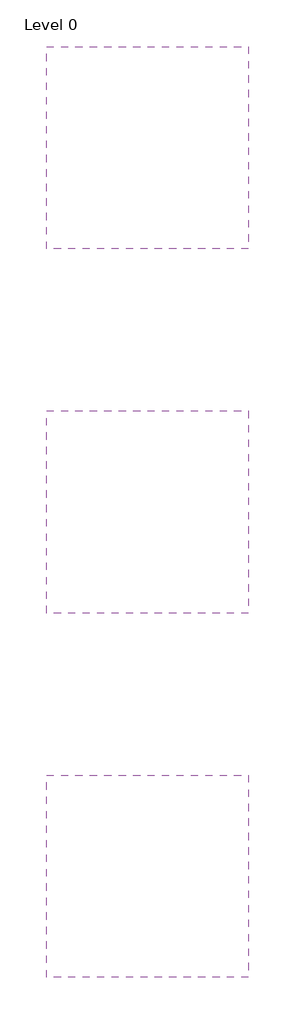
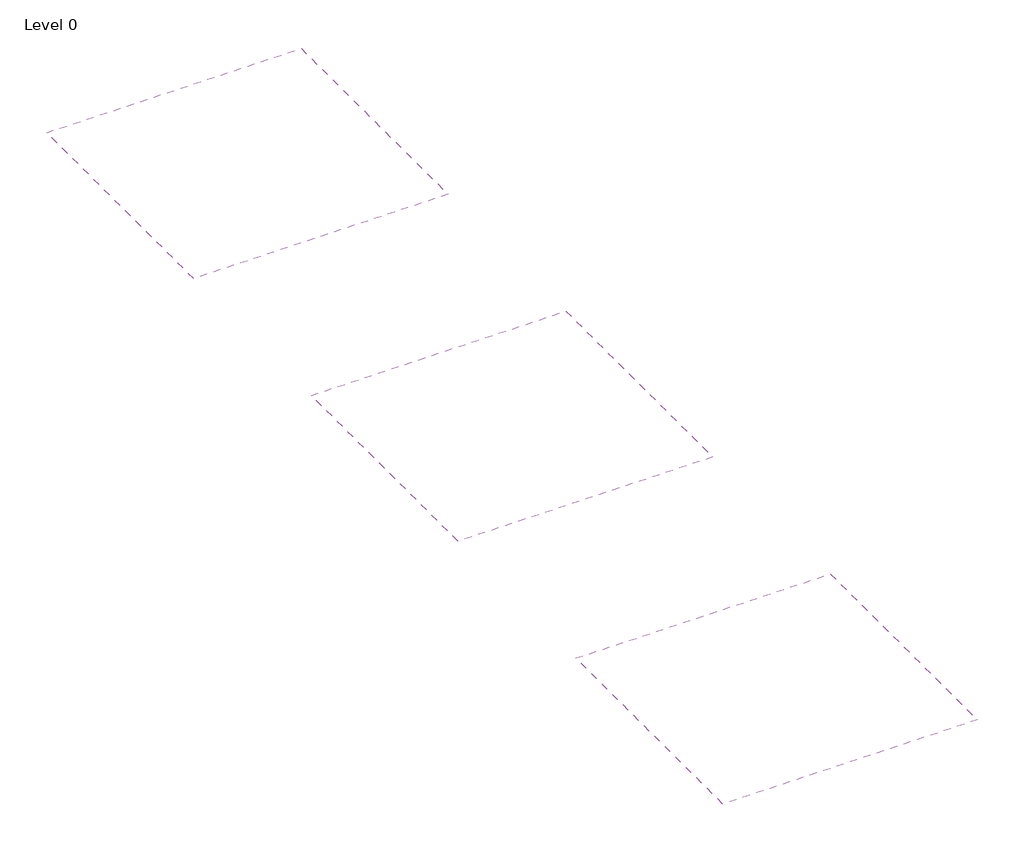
# One storey: 3 coverings.
"""IFC4 building model written with IfcOpenShell, lengths in millimetres."""

from ifc_helpers import new_model, si_unit, frame, origin, place, context, project, spatial, polyline, outline, extrude, element, save

model = new_model("IFC4")

# Units and contexts
model_context = context("Model", 3, world=origin())
ifc_project = project(units=[si_unit("LENGTHUNIT", "METRE", prefix="MILLI")], contexts=[model_context])

# Site, building, storey
site = spatial("IfcSite", under=ifc_project)
building = spatial("IfcBuilding", under=site)
storey = spatial("IfcBuildingStorey", under=building, Name="Level 0", Elevation=0.0)

# Coverings
placement = place(None, origin())
element("IfcCovering", 1, ObjectType="NBS_Zentia_ModularSuspendedCeilingSystems_ArubadB_BoardEdgeInfills", at=placement, inside=storey, context=model_context, shape_type="SweptSolid", body=[
    extrude(outline(polyline([(2999.979, -1922.5276493), (2999.979, -4422.5276493), (499.979, -4422.5276493), (499.979, -1922.5276493), (2999.979, -1922.5276493)])), frame((0.0, 0.0, 2600.0), z_axis=(0.0, 0.0, 1.0), x_axis=(1.0, 0.0, 0.0)), (0.0, 0.0, 1.0), 19.0),
])
element("IfcCovering", 2, ObjectType="NBS_Zentia_ModularSuspendedCeilingSystems_ArubadB_Tegular15EdgeInfills", at=placement, inside=storey, context=model_context, shape_type="SweptSolid", body=[
    extrude(outline(polyline([(2999.979, -6422.5276493), (2999.979, -8922.5276493), (499.979, -8922.5276493), (499.979, -6422.5276493), (2999.979, -6422.5276493)])), frame((0.0, 0.0, 2600.0), z_axis=(0.0, 0.0, 1.0), x_axis=(1.0, 0.0, 0.0)), (0.0, 0.0, 1.0), 19.0),
])
element("IfcCovering", 3, ObjectType="NBS_Zentia_ModularSuspendedCeilingSystems_ArubadB_Tegular24EdgeInfills", at=placement, inside=storey, context=model_context, shape_type="SweptSolid", body=[
    extrude(outline(polyline([(2999.979, -10922.5276493), (2999.979, -13422.5276493), (499.979, -13422.5276493), (499.979, -10922.5276493), (2999.979, -10922.5276493)])), frame((0.0, 0.0, 2600.0), z_axis=(0.0, 0.0, 1.0), x_axis=(1.0, 0.0, 0.0)), (0.0, 0.0, 1.0), 19.0),
])

save(model, "model.ifc")
